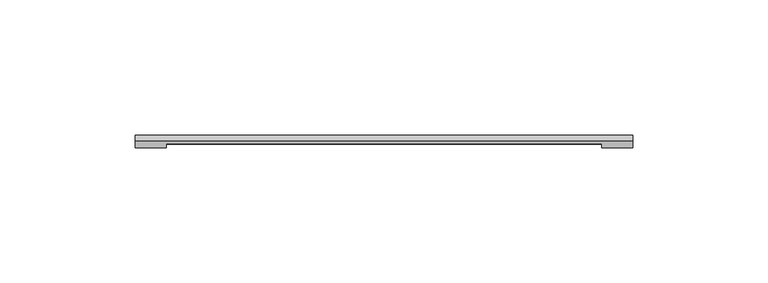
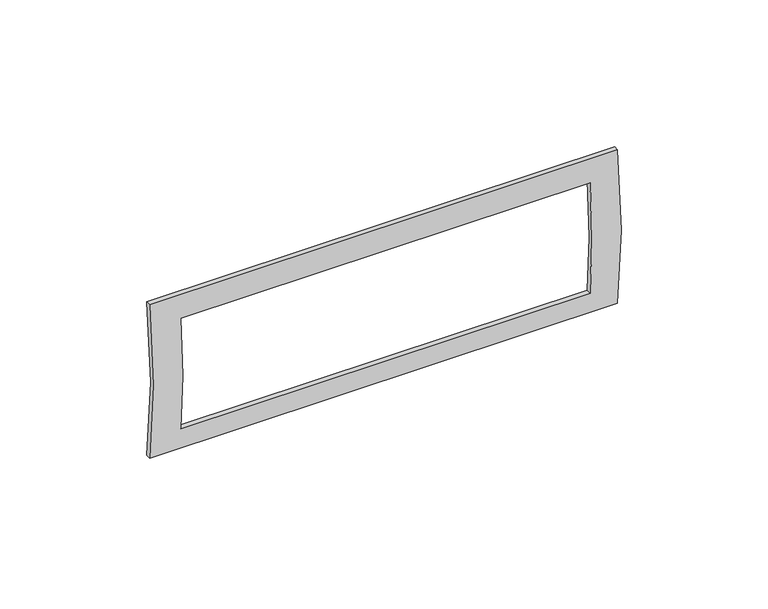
"""IFC4 building model written with IfcOpenShell, lengths in millimetres: proxy geometry, КНС_РамкаУниверсальная_ILF_DKC : 6 модулей."""

from ifc_helpers import new_model, si_unit, frame, origin, place, context, project, spatial, polyline, circle_curve, source, transform, mapped, element, save
from ifc_brep_helpers import plane_surface, cylinder_surface, revolved_surface, advanced_brep


def electrical_fixtures_24f5e3a6(model_context):
    return source(origin(), model_context, "Body", "AdvancedBrep", [
        advanced_brep(
        [(92.0, -2.0, 31.9768143), (92.0, -2.0, -31.9768143), (92.0, 0.0, -31.9768143), (92.0, 0.0, 31.9768143), (-92.0, -2.0, 31.9768143), (-92.0, 0.0, 31.9768143), (-92.0, 0.0, -31.9768143), (-92.0, -2.0, -31.9768143), (80.5, -3.2414184, 22.9768143), (80.5, -3.2414184, -22.9768143), (-80.5, -3.2414184, -22.9768143), (-80.5, -3.2414184, 22.9768143), (80.5, -1.2414184, -22.9768143), (80.5, -1.2414184, 22.9768143), (-80.5, -1.2414184, 22.9768143), (-80.5, -1.2414184, -22.9768143)],
        [
            (0, 1, circle_curve(frame((92.0, 196.5799224, 0.0), z_axis=(1.0, 0.0, 0.0), x_axis=(0.0, 1.0, 0.0)), 201.1380178)),
            (1, 2),
            (2, 3, circle_curve(frame((92.0, 198.5799224, 0.0), z_axis=(-1.0, 0.0, 0.0), x_axis=(0.0, 1.0, 0.0)), 201.1380178)),
            (3, 0),
            (4, 5),
            (5, 6, circle_curve(frame((-92.0, 198.5799224, 0.0), z_axis=(1.0, 0.0, 0.0), x_axis=(0.0, 1.0, 0.0)), 201.1380178)),
            (6, 7),
            (7, 4, circle_curve(frame((-92.0, 196.5799224, 0.0), z_axis=(-1.0, 0.0, 0.0), x_axis=(0.0, 1.0, 0.0)), 201.1380178)),
            (0, 4),
            (7, 1),
            (8, 9, circle_curve(frame((80.5, 196.5799224, 0.0), z_axis=(1.0, 0.0, 0.0), x_axis=(0.0, 1.0, 0.0)), 201.1380178)),
            (9, 10),
            (10, 11, circle_curve(frame((-80.5, 196.5799224, 0.0), z_axis=(-1.0, 0.0, 0.0), x_axis=(0.0, 1.0, 0.0)), 201.1380178)),
            (11, 8),
            (6, 2),
            (5, 3),
            (12, 13, circle_curve(frame((80.5, 198.5799224, 0.0), z_axis=(-1.0, 0.0, 0.0), x_axis=(0.0, 1.0, 0.0)), 201.1380178)),
            (13, 14),
            (14, 15, circle_curve(frame((-80.5, 198.5799224, 0.0), z_axis=(1.0, 0.0, 0.0), x_axis=(0.0, 1.0, 0.0)), 201.1380178)),
            (15, 12),
            (8, 13),
            (12, 9),
            (10, 15),
            (14, 11),
        ],
        [
            plane_surface(frame((92.0, 397.7179402, 0.0), z_axis=(1.0, 0.0, 0.0), x_axis=(0.0, 0.0, 1.0))),
            plane_surface(frame((-92.0, 397.7179402, 0.0), z_axis=(-1.0, 0.0, 0.0), x_axis=(0.0, 0.0, -1.0))),
            cylinder_surface(frame((-92.0, 196.5799224, 0.0), z_axis=(1.0, 0.0, 0.0), x_axis=(0.0, 1.0, 0.0)), 201.1380178),
            plane_surface(frame((92.0, -2.0, -31.9768143), z_axis=(0.0, 0.0, -1.0), x_axis=(-1.0, 0.0, 0.0))),
            revolved_surface(polyline([(-92.0, 399.7179402, 0.0), (92.0, 399.7179402, 0.0)]), (-92.0, 198.5799224, 0.0), (-1.0, 0.0, 0.0)),
            plane_surface(frame((92.0, 0.0, 31.9768143), z_axis=(0.0, 0.0, 1.0), x_axis=(-1.0, 0.0, 0.0))),
            plane_surface(frame((80.5, 397.7179402, 0.0), z_axis=(-1.0, 0.0, 0.0), x_axis=(0.0, 0.0, 1.0))),
            plane_surface(frame((-80.5, 397.7179402, 0.0), z_axis=(1.0, 0.0, 0.0), x_axis=(0.0, 0.0, -1.0))),
            plane_surface(frame((80.5, -1.2414184, 22.9768143), z_axis=(0.0, 0.0, -1.0), x_axis=(-1.0, 0.0, 0.0))),
            plane_surface(frame((80.5, -3.2414184, -22.9768143), z_axis=(0.0, 0.0, 1.0), x_axis=(-1.0, 0.0, 0.0))),
        ],
        [
            (0, [[1, 2, 3, 4]]),
            (1, [[5, 6, 7, 8]]),
            (2, [[-1, 9, -8, 10], [11, 12, 13, 14]]),
            (3, [[-2, -10, -7, 15]]),
            (4, [[-3, -15, -6, 16], [17, 18, 19, 20]]),
            (5, [[-4, -16, -5, -9]]),
            (6, [[21, -17, 22, -11]]),
            (7, [[23, -19, 24, -13]]),
            (8, [[-21, -14, -24, -18]]),
            (9, [[-22, -20, -23, -12]]),
        ],
    ),
    ])


if __name__ == "__main__":
    model = new_model("IFC4")
    model_context = context("Model", 3, world=origin())
    ifc_project = project(units=[si_unit("LENGTHUNIT", "METRE", prefix="MILLI")], contexts=[model_context])
    site = spatial("IfcSite", under=ifc_project)
    building = spatial("IfcBuilding", under=site)
    placement = place(None, origin())
    electrical_fixtures_shape = electrical_fixtures_24f5e3a6(model_context)
    element("IfcBuildingElementProxy", 1, Name="КНС_РамкаУниверсальная_ILF_DKC : 6 модулей", ObjectType="КНС_РамкаУниверсальная_ILF_DKC : 6 модулей", at=placement, inside=building, context=model_context, shape_type="MappedRepresentation", body=[
        mapped(electrical_fixtures_shape, transform((0.0, 0.0, 0.0), x_axis=(1.0, 0.0, 0.0), y_axis=(0.0, 1.0, 0.0), z_axis=(0.0, 0.0, 1.0))),
    ])
    save(model, "model.ifc")
